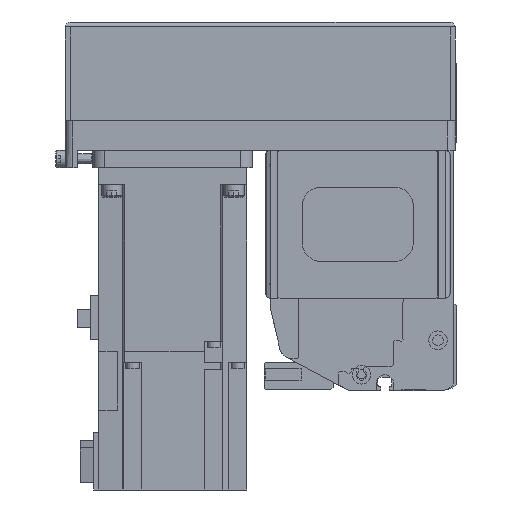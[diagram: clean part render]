
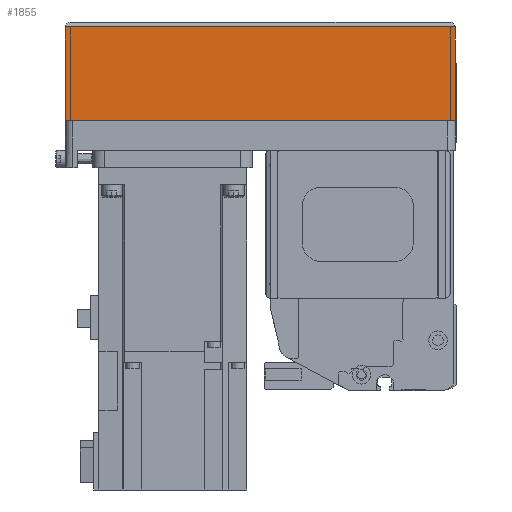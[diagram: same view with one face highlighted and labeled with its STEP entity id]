
A CAD part, left-side view. The second image highlights one B-rep face of the part: STEP entity #1855.
In plain terms, the highlighted planar face has unit normal (-1, 0, 0) as drawn and (0, 1, 0) by its records, which use the part's own axes.
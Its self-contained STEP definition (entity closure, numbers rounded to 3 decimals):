
#1855 = ADVANCED_FACE( '', ( #4547 ), #4548, .T. );
#4547 = FACE_OUTER_BOUND( '', #8288, .T. );
#4548 = PLANE( '', #8289 );
#8288 = EDGE_LOOP( '', ( #13560, #13561, #13562, #13563 ) );
#8289 = AXIS2_PLACEMENT_3D( '', #13564, #13565, #13566 );
#13560 = ORIENTED_EDGE( '', *, *, #22230, .F. );
#13561 = ORIENTED_EDGE( '', *, *, #22231, .F. );
#13562 = ORIENTED_EDGE( '', *, *, #21463, .T. );
#13563 = ORIENTED_EDGE( '', *, *, #22232, .T. );
#13564 = CARTESIAN_POINT( '', ( -158., 39., -50. ) );
#13565 = DIRECTION( '', ( 0., 1., 0. ) );
#13566 = DIRECTION( '', ( 0., 0., 1. ) );
#21463 = EDGE_CURVE( '', #25775, #25773, #25776, .T. );
#22230 = EDGE_CURVE( '', #27050, #27051, #27052, .T. );
#22231 = EDGE_CURVE( '', #25775, #27050, #27053, .T. );
#22232 = EDGE_CURVE( '', #25773, #27051, #27054, .T. );
#25773 = VERTEX_POINT( '', #31945 );
#25775 = VERTEX_POINT( '', #31948 );
#25776 = LINE( '', #31949, #31950 );
#27050 = VERTEX_POINT( '', #34158 );
#27051 = VERTEX_POINT( '', #34159 );
#27052 = LINE( '', #34160, #34161 );
#27053 = LINE( '', #34162, #34163 );
#27054 = LINE( '', #34164, #34165 );
#31945 = CARTESIAN_POINT( '', ( -158., 39., -12.1 ) );
#31948 = CARTESIAN_POINT( '', ( -158., 39., -50. ) );
#31949 = CARTESIAN_POINT( '', ( -158., 39., -50. ) );
#31950 = VECTOR( '', #39926, 1000. );
#34158 = CARTESIAN_POINT( '', ( 0., 39., -50. ) );
#34159 = CARTESIAN_POINT( '', ( 0., 39., -12.1 ) );
#34160 = CARTESIAN_POINT( '', ( 0., 39., -50. ) );
#34161 = VECTOR( '', #40902, 1000. );
#34162 = CARTESIAN_POINT( '', ( -158., 39., -50. ) );
#34163 = VECTOR( '', #40903, 1000. );
#34164 = CARTESIAN_POINT( '', ( -158., 39., -12.1 ) );
#34165 = VECTOR( '', #40904, 1000. );
#39926 = DIRECTION( '', ( 0., 0., 1. ) );
#40902 = DIRECTION( '', ( 0., 0., 1. ) );
#40903 = DIRECTION( '', ( 1., 0., 0. ) );
#40904 = DIRECTION( '', ( 1., 0., 0. ) );
